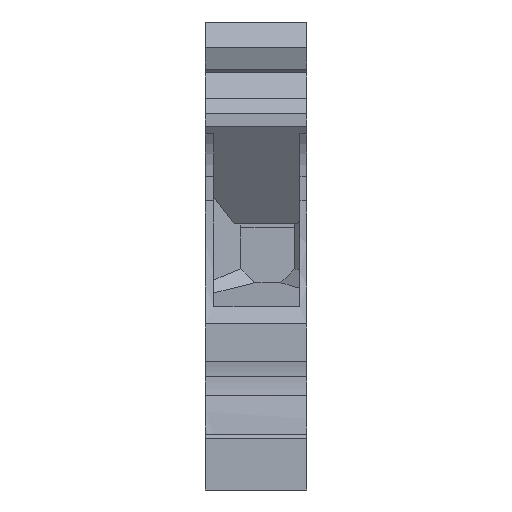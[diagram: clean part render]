
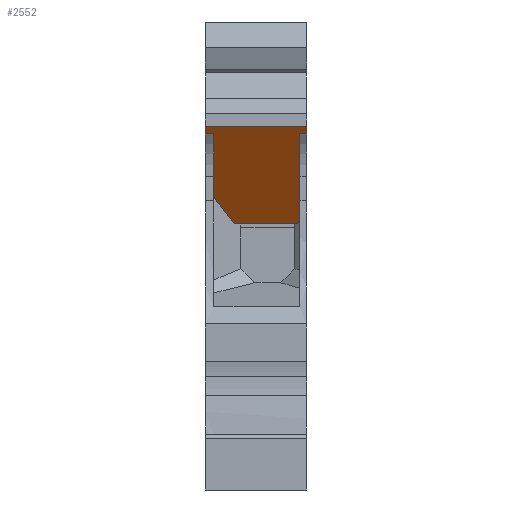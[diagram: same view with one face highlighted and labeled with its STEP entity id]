
A CAD part, front view. The second image highlights one B-rep face of the part: STEP entity #2552.
In plain terms, the highlighted planar face has unit normal (0, -0.793, -0.609).
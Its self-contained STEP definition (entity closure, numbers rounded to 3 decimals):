
#495=CARTESIAN_POINT('',(0.,2.804,35.639));
#496=VERTEX_POINT('',#495);
#504=CARTESIAN_POINT('',(0.,2.2,36.426));
#505=VERTEX_POINT('',#504);
#506=CARTESIAN_POINT('',(0.,2.804,35.639));
#507=DIRECTION('',(0.,-0.609,0.793));
#508=VECTOR('',#507,0.992);
#509=LINE('',#506,#508);
#510=EDGE_CURVE('',#496,#505,#509,.T.);
#1011=CARTESIAN_POINT('',(10.15,2.2,36.426));
#1012=VERTEX_POINT('',#1011);
#1019=CARTESIAN_POINT('',(10.15,2.804,35.639));
#1020=VERTEX_POINT('',#1019);
#1021=CARTESIAN_POINT('',(10.15,2.2,36.426));
#1022=DIRECTION('',(-0.,0.609,-0.793));
#1023=VECTOR('',#1022,0.992);
#1024=LINE('',#1021,#1023);
#1025=EDGE_CURVE('',#1012,#1020,#1024,.T.);
#2481=CARTESIAN_POINT('',(0.,2.2,36.426));
#2482=DIRECTION('',(1.,0.,-0.));
#2483=VECTOR('',#2482,10.15);
#2484=LINE('',#2481,#2483);
#2485=EDGE_CURVE('',#505,#1012,#2484,.T.);
#2490=CARTESIAN_POINT('',(10.15,7.461,29.568));
#2491=DIRECTION('',(-0.,-0.793,-0.609));
#2492=DIRECTION('',(0.,-0.609,0.793));
#2493=AXIS2_PLACEMENT_3D('',#2490,#2491,#2492);
#2494=PLANE('',#2493);
#2495=CARTESIAN_POINT('',(0.85,2.804,35.639));
#2496=VERTEX_POINT('',#2495);
#2497=CARTESIAN_POINT('',(0.,2.804,35.639));
#2498=DIRECTION('',(1.,-0.,-0.));
#2499=VECTOR('',#2498,0.85);
#2500=LINE('',#2497,#2499);
#2501=EDGE_CURVE('',#496,#2496,#2500,.T.);
#2502=ORIENTED_EDGE('',*,*,#2501,.T.);
#2503=CARTESIAN_POINT('',(0.85,7.65,29.322));
#2504=VERTEX_POINT('',#2503);
#2505=CARTESIAN_POINT('',(0.85,2.804,35.639));
#2506=DIRECTION('',(-0.,0.609,-0.793));
#2507=VECTOR('',#2506,7.962);
#2508=LINE('',#2505,#2507);
#2509=EDGE_CURVE('',#2496,#2504,#2508,.T.);
#2510=ORIENTED_EDGE('',*,*,#2509,.T.);
#2511=CARTESIAN_POINT('',(2.887,9.687,26.666));
#2512=VERTEX_POINT('',#2511);
#2513=CARTESIAN_POINT('',(0.85,7.65,29.322));
#2514=CARTESIAN_POINT('',(2.887,9.687,26.666));
#2515=B_SPLINE_CURVE_WITH_KNOTS('',1,(#2513,#2514),.UNSPECIFIED.,.F.,.F.,(2,2),(0.,3.919),.UNSPECIFIED.);
#2516=EDGE_CURVE('',#2504,#2512,#2515,.T.);
#2517=ORIENTED_EDGE('',*,*,#2516,.T.);
#2518=CARTESIAN_POINT('',(9.213,9.687,26.666));
#2519=VERTEX_POINT('',#2518);
#2520=CARTESIAN_POINT('',(9.213,9.687,26.666));
#2521=DIRECTION('',(-1.,0.,0.));
#2522=VECTOR('',#2521,6.325);
#2523=LINE('',#2520,#2522);
#2524=EDGE_CURVE('',#2519,#2512,#2523,.T.);
#2525=ORIENTED_EDGE('',*,*,#2524,.F.);
#2526=CARTESIAN_POINT('',(9.45,9.45,26.976));
#2527=VERTEX_POINT('',#2526);
#2528=CARTESIAN_POINT('',(9.45,9.45,26.976));
#2529=CARTESIAN_POINT('',(9.213,9.687,26.666));
#2530=B_SPLINE_CURVE_WITH_KNOTS('',1,(#2528,#2529),.UNSPECIFIED.,.F.,.F.,(2,2),(0.,0.457),.UNSPECIFIED.);
#2531=EDGE_CURVE('',#2527,#2519,#2530,.T.);
#2532=ORIENTED_EDGE('',*,*,#2531,.F.);
#2533=CARTESIAN_POINT('',(9.45,2.804,35.639));
#2534=VERTEX_POINT('',#2533);
#2535=CARTESIAN_POINT('',(9.45,9.45,26.976));
#2536=DIRECTION('',(0.,-0.609,0.793));
#2537=VECTOR('',#2536,10.919);
#2538=LINE('',#2535,#2537);
#2539=EDGE_CURVE('',#2527,#2534,#2538,.T.);
#2540=ORIENTED_EDGE('',*,*,#2539,.T.);
#2541=CARTESIAN_POINT('',(9.45,2.804,35.639));
#2542=DIRECTION('',(1.,-0.,-0.));
#2543=VECTOR('',#2542,0.7);
#2544=LINE('',#2541,#2543);
#2545=EDGE_CURVE('',#2534,#1020,#2544,.T.);
#2546=ORIENTED_EDGE('',*,*,#2545,.T.);
#2547=ORIENTED_EDGE('',*,*,#1025,.F.);
#2548=ORIENTED_EDGE('',*,*,#2485,.F.);
#2549=ORIENTED_EDGE('',*,*,#510,.F.);
#2550=EDGE_LOOP('',(#2502,#2510,#2517,#2525,#2532,#2540,#2546,#2547,#2548,#2549));
#2551=FACE_BOUND('',#2550,.T.);
#2552=ADVANCED_FACE('',(#2551),#2494,.T.);
